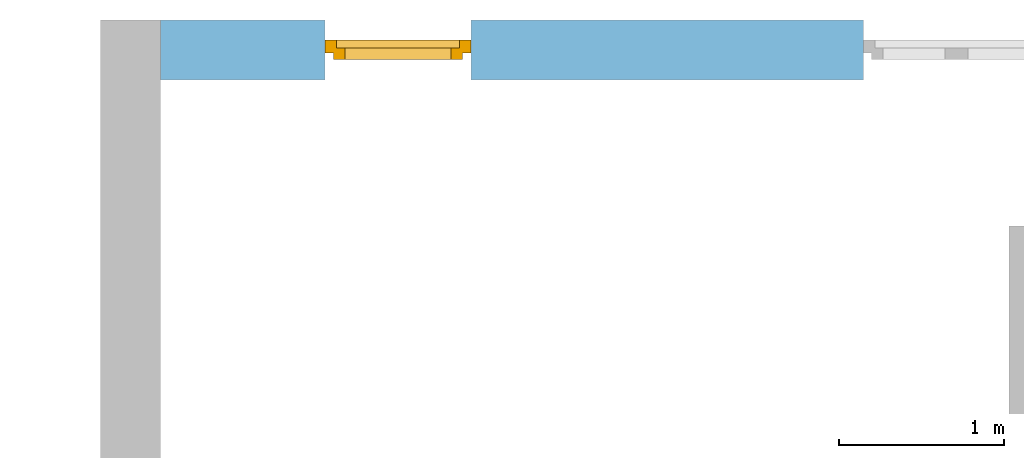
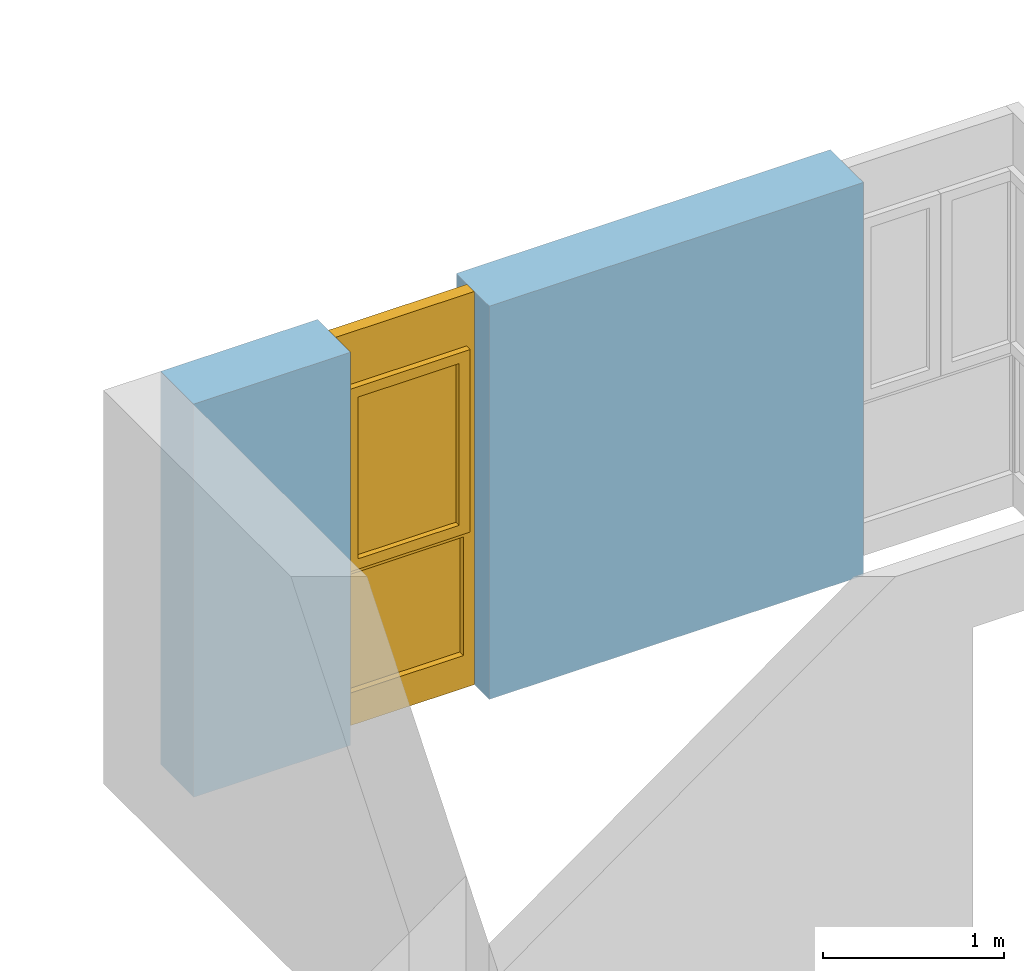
# One storey, part 20 of 42: 1 window, 2 openings, plus 1 element that does not belong to this part.
"""IFC2X3 building model written with IfcOpenShell, lengths in millimetres."""

from ifc_helpers import new_model, entity, si_unit, converted_unit, frame, frame_2d, origin, origin_with_axes, place, context, subcontext, project, spatial, rectangle, extrude, faceted_brep, material, layer, layer_set, layer_usage, type_object, element, fill, save


model = new_model("IFC2X3")

# Units and contexts
model_context = context("Model", 3, precision=1e-05, world=origin())
body_context = subcontext(model_context, "Body", "Model", "MODEL_VIEW")
ifc_project = project(units=[si_unit("LENGTHUNIT", "METRE", prefix="MILLI"), converted_unit("PLANEANGLEUNIT", "DEGREE", entity("IfcPlaneAngleMeasure", 0.0174532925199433), si_unit("PLANEANGLEUNIT", "RADIAN"), dimensions=[0, 0, 0, 0, 0, 0, 0]), si_unit("AREAUNIT", "SQUARE_METRE"), si_unit("VOLUMEUNIT", "CUBIC_METRE")], contexts=[model_context])

# Building, storey
building_placement = place(None, origin())
building = spatial("IfcBuilding", under=ifc_project, at=building_placement, Name="Gebäude", CompositionType="ELEMENT")
storey_placement = place(building_placement, frame((0.0, 0.0, 2730.0), z_axis=(0.0, 0.0, 1.0), x_axis=(1.0, 0.0, 0.0)))
storey = spatial("IfcBuildingStorey", under=building, at=storey_placement, Name="OG.- Grundriss", CompositionType="ELEMENT", Elevation=2730.0)

# Wall, openings, window
ifc_material_1 = material(Name="Poroton")
ifc_layer = layer(ifc_material_1, 365.0000000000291)
ifc_layer_set = layer_set([ifc_layer])
ifc_layer_usage = layer_usage(ifc_layer_set, "AXIS2", "POSITIVE", 0.0)
wall_placement = place(storey_placement, frame((154222.7928067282, 139284.8877324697, 0.0), z_axis=(0.0, 0.0, 1.0), x_axis=(0.9999999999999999, 0.0, 0.0)))
wall = element("IfcWallStandardCase", 1, at=wall_placement, inside=storey, material=ifc_layer_usage, Name="<Unnamed Element>", context=body_context, shape_type="SweptSolid", body=[
    extrude(rectangle(XDim=5520.000000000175, YDim=365.0000000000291, at=frame_2d((2760.000000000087, 182.5000000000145), x_axis=(1.0, 0.0))), origin_with_axes(), (0.0, 0.0, 1.0), 2650.0),
])
opening_1_placement = place(wall_placement, frame((4270.000000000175, 0.0, 0.0), z_axis=(0.0, 1.0, 0.0), x_axis=(0.0, 0.0, 1.0)))
element("IfcOpeningElement", 2, at=opening_1_placement, cuts=wall, Name="Fensteröffnung", ObjectType="Opening", context=body_context, shape_type="Brep", body=[
    faceted_brep([(0.0, 884.9999999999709, -884.9999999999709), (0.0, 1250.0, -884.9999999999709), (0.0, 1250.0, 365.0000000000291), (0.0, 0.0, 365.0000000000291), (0.0, 0.0, 0.0), (0.0, 884.9999999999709, 0.0), (2650.0, 1250.0, -884.9999999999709), (2650.0, 884.9999999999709, -884.9999999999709), (2650.0, 884.9999999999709, 0.0), (2650.0, 0.0, 0.0), (2650.0, 0.0, 365.0000000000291), (2650.0, 1250.0, 365.0000000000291), (0.0, 0.0, 365.0000000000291), (0.0, 1250.0, 365.0000000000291), (2650.0, 1250.0, 365.0000000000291), (2650.0, 0.0, 365.0000000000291), (0.0, 0.0, 0.0), (0.0, 0.0, 365.0000000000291), (2650.0, 0.0, 365.0000000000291), (2650.0, 0.0, 0.0), (0.0, 884.9999999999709, 0.0), (0.0, 0.0, 0.0), (2650.0, 0.0, 0.0), (2650.0, 884.9999999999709, 0.0), (0.0, 1250.0, -884.9999999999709), (0.0, 884.9999999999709, -884.9999999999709), (2650.0, 884.9999999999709, -884.9999999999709), (2650.0, 1250.0, -884.9999999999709), (0.0, 1250.0, 365.0000000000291), (0.0, 1250.0, -884.9999999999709), (2650.0, 1250.0, -884.9999999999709), (2650.0, 1250.0, 365.0000000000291), (0.0, 884.9999999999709, -884.9999999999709), (0.0, 884.9999999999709, 0.0), (2650.0, 884.9999999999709, 0.0), (2650.0, 884.9999999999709, -884.9999999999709)], [[[0, 1, 2, 3, 4, 5]], [[6, 7, 8, 9, 10, 11]], [[12, 13, 14, 15]], [[16, 17, 18, 19]], [[20, 21, 22, 23]], [[24, 25, 26, 27]], [[28, 29, 30, 31]], [[32, 33, 34, 35]]], orient=[[False], [False], [False], [False], [False], [False], [False], [False]]),
])
opening_2_placement = place(wall_placement, frame((999.9999999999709, 0.0, 0.0), z_axis=(0.0, 1.0, 0.0), x_axis=(0.0, 0.0, 1.0)))
opening_2 = element("IfcOpeningElement", 3, at=opening_2_placement, cuts=wall, Name="Fensteröffnung", ObjectType="Opening", context=body_context, shape_type="SweptSolid", body=[
    extrude(rectangle(XDim=2650.0, YDim=885.0, at=frame_2d((1325.0, 442.5), x_axis=(1.0, 0.0))), origin_with_axes(), (0.0, 0.0, 1.0), 365.0000000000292),
])
ifc_material_2 = material()
window_style = type_object("IfcWindowStyle", Name="Fenster", ConstructionType="NOTDEFINED", OperationType="USERDEFINED", ParameterTakesPrecedence=False, Sizeable=False)
window_placement = place(opening_2_placement, frame((0.0, 0.0, 0.0), z_axis=(1.0, 0.0, 0.0), x_axis=(0.0, 1.0, 0.0)))
window = element("IfcWindow", 4, at=window_placement, inside=storey, type_object=window_style, material=ifc_material_2, Name="Fenster", OverallHeight=2650.0, OverallWidth=885.0, context=body_context, shape_type="Brep", body=[
    faceted_brep([(885.0, 164.9999999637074, 2650.0), (885.0, 164.9999999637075, -2.449293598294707e-15), (815.0, 164.9999999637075, -2.449293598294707e-15), (815.0, 164.9999999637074, 2650.0), (885.0, 244.9999999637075, 2.449293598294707e-15), (885.0, 244.9999999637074, 2650.0), (815.0, 244.9999999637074, 2650.0), (815.0, 244.9999999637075, 2.449293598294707e-15), (885.0, 164.9999999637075, -2.449293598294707e-15), (885.0, 164.9999999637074, 2650.0), (885.0, 244.9999999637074, 2650.0), (885.0, 244.9999999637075, 2.449293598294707e-15), (815.0, 164.9999999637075, -2.449293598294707e-15), (885.0, 164.9999999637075, -2.449293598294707e-15), (885.0, 244.9999999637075, 2.449293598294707e-15), (815.0, 244.9999999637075, 2.449293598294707e-15), (815.0, 164.9999999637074, 2650.0), (815.0, 164.9999999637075, -2.449293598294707e-15), (815.0, 244.9999999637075, 2.449293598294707e-15), (815.0, 244.9999999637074, 2650.0), (885.0, 164.9999999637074, 2650.0), (815.0, 164.9999999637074, 2650.0), (815.0, 244.9999999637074, 2650.0), (885.0, 244.9999999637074, 2650.0)], [[[0, 1, 2, 3]], [[4, 5, 6, 7]], [[8, 9, 10, 11]], [[12, 13, 14, 15]], [[16, 17, 18, 19]], [[20, 21, 22, 23]]], orient=[[False], [False], [False], [False], [False], [False]]),
    faceted_brep([(69.99999998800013, 164.9999999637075, 2650.0), (69.99999998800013, 164.9999999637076, -2.449293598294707e-15), (-1.199987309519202e-08, 164.9999999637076, -2.449293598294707e-15), (-1.199987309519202e-08, 164.9999999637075, 2650.0), (69.99999998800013, 244.9999999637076, 2.449293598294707e-15), (69.99999998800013, 244.9999999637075, 2650.0), (-1.199987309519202e-08, 244.9999999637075, 2650.0), (-1.199987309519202e-08, 244.9999999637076, 2.449293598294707e-15), (69.99999998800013, 164.9999999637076, -2.449293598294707e-15), (69.99999998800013, 164.9999999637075, 2650.0), (69.99999998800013, 244.9999999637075, 2650.0), (69.99999998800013, 244.9999999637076, 2.449293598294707e-15), (-1.199987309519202e-08, 164.9999999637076, -2.449293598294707e-15), (69.99999998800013, 164.9999999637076, -2.449293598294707e-15), (69.99999998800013, 244.9999999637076, 2.449293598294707e-15), (-1.199987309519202e-08, 244.9999999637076, 2.449293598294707e-15), (-1.199987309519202e-08, 164.9999999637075, 2650.0), (-1.199987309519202e-08, 164.9999999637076, -2.449293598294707e-15), (-1.199987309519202e-08, 244.9999999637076, 2.449293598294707e-15), (-1.199987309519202e-08, 244.9999999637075, 2650.0), (69.99999998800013, 164.9999999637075, 2650.0), (-1.199987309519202e-08, 164.9999999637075, 2650.0), (-1.199987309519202e-08, 244.9999999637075, 2650.0), (69.99999998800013, 244.9999999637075, 2650.0)], [[[0, 1, 2, 3]], [[4, 5, 6, 7]], [[8, 9, 10, 11]], [[12, 13, 14, 15]], [[16, 17, 18, 19]], [[20, 21, 22, 23]]], orient=[[False], [False], [False], [False], [False], [False]]),
    faceted_brep([(815.0, 164.9999999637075, 220.0), (815.0, 164.9999999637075, -2.449293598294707e-15), (69.99999998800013, 164.9999999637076, -2.449293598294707e-15), (69.99999998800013, 164.9999999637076, 220.0), (815.0, 244.9999999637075, 2.449293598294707e-15), (815.0, 244.9999999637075, 220.0), (69.99999998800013, 244.9999999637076, 220.0), (69.99999998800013, 244.9999999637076, 2.449293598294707e-15), (815.0, 164.9999999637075, -2.449293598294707e-15), (815.0, 164.9999999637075, 220.0), (815.0, 244.9999999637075, 220.0), (815.0, 244.9999999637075, 2.449293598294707e-15), (69.99999998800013, 164.9999999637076, -2.449293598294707e-15), (815.0, 164.9999999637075, -2.449293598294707e-15), (815.0, 244.9999999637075, 2.449293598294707e-15), (69.99999998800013, 244.9999999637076, 2.449293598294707e-15), (69.99999998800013, 164.9999999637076, 220.0), (69.99999998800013, 164.9999999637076, -2.449293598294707e-15), (69.99999998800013, 244.9999999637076, 2.449293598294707e-15), (69.99999998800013, 244.9999999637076, 220.0), (815.0, 164.9999999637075, 220.0), (69.99999998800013, 164.9999999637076, 220.0), (69.99999998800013, 244.9999999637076, 220.0), (815.0, 244.9999999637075, 220.0)], [[[0, 1, 2, 3]], [[4, 5, 6, 7]], [[8, 9, 10, 11]], [[12, 13, 14, 15]], [[16, 17, 18, 19]], [[20, 21, 22, 23]]], orient=[[False], [False], [False], [False], [False], [False]]),
    faceted_brep([(815.0, 164.9999999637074, 2650.0), (815.0, 164.9999999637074, 2280.0), (69.99999998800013, 164.9999999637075, 2280.0), (69.99999998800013, 164.9999999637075, 2650.0), (815.0, 244.9999999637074, 2280.0), (815.0, 244.9999999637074, 2650.0), (69.99999998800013, 244.9999999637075, 2650.0), (69.99999998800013, 244.9999999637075, 2280.0), (815.0, 164.9999999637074, 2280.0), (815.0, 164.9999999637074, 2650.0), (815.0, 244.9999999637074, 2650.0), (815.0, 244.9999999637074, 2280.0), (69.99999998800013, 164.9999999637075, 2280.0), (815.0, 164.9999999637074, 2280.0), (815.0, 244.9999999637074, 2280.0), (69.99999998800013, 244.9999999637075, 2280.0), (69.99999998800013, 164.9999999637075, 2650.0), (69.99999998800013, 164.9999999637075, 2280.0), (69.99999998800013, 244.9999999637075, 2280.0), (69.99999998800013, 244.9999999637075, 2650.0), (815.0, 164.9999999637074, 2650.0), (69.99999998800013, 164.9999999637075, 2650.0), (69.99999998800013, 244.9999999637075, 2650.0), (815.0, 244.9999999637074, 2650.0)], [[[0, 1, 2, 3]], [[4, 5, 6, 7]], [[8, 9, 10, 11]], [[12, 13, 14, 15]], [[16, 17, 18, 19]], [[20, 21, 22, 23]]], orient=[[False], [False], [False], [False], [False], [False]]),
    faceted_brep([(815.0, 164.9999999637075, 1090.0), (815.0, 164.9999999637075, 1020.0), (69.99999998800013, 164.9999999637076, 1020.0), (69.99999998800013, 164.9999999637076, 1090.0), (815.0, 244.9999999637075, 1020.0), (815.0, 244.9999999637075, 1090.0), (69.99999998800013, 244.9999999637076, 1090.0), (69.99999998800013, 244.9999999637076, 1020.0), (815.0, 164.9999999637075, 1020.0), (815.0, 164.9999999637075, 1090.0), (815.0, 244.9999999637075, 1090.0), (815.0, 244.9999999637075, 1020.0), (69.99999998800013, 164.9999999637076, 1020.0), (815.0, 164.9999999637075, 1020.0), (815.0, 244.9999999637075, 1020.0), (69.99999998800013, 244.9999999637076, 1020.0), (69.99999998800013, 164.9999999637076, 1090.0), (69.99999998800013, 164.9999999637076, 1020.0), (69.99999998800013, 244.9999999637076, 1020.0), (69.99999998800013, 244.9999999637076, 1090.0), (815.0, 164.9999999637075, 1090.0), (69.99999998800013, 164.9999999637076, 1090.0), (69.99999998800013, 244.9999999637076, 1090.0), (815.0, 244.9999999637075, 1090.0)], [[[0, 1, 2, 3]], [[4, 5, 6, 7]], [[8, 9, 10, 11]], [[12, 13, 14, 15]], [[16, 17, 18, 19]], [[20, 21, 22, 23]]], orient=[[False], [False], [False], [False], [False], [False]]),
    faceted_brep([(815.0, 204.9999999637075, 220.0), (69.99999998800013, 204.9999999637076, 220.0), (69.99999998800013, 204.9999999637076, 1020.0), (815.0, 204.9999999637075, 1020.0), (815.0, 205.9999999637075, 220.0), (815.0, 205.9999999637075, 1020.0), (69.99999998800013, 205.9999999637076, 1020.0), (69.99999998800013, 205.9999999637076, 220.0), (815.0, 204.9999999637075, 220.0), (815.0, 205.9999999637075, 220.0), (69.99999998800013, 205.9999999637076, 220.0), (69.99999998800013, 204.9999999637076, 220.0), (69.99999998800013, 204.9999999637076, 220.0), (69.99999998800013, 205.9999999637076, 220.0), (69.99999998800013, 205.9999999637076, 1020.0), (69.99999998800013, 204.9999999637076, 1020.0), (69.99999998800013, 204.9999999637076, 1020.0), (69.99999998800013, 205.9999999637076, 1020.0), (815.0, 205.9999999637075, 1020.0), (815.0, 204.9999999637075, 1020.0), (815.0, 204.9999999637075, 1020.0), (815.0, 205.9999999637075, 1020.0), (815.0, 205.9999999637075, 220.0), (815.0, 204.9999999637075, 220.0)], [[[0, 1, 2, 3]], [[4, 5, 6, 7]], [[8, 9, 10, 11]], [[12, 13, 14, 15]], [[16, 17, 18, 19]], [[20, 21, 22, 23]]], orient=[[False], [False], [False], [False], [False], [False]]),
    faceted_brep([(835.0, 124.9999999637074, 2300.0), (835.0, 124.9999999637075, 1070.0), (765.0, 124.9999999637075, 1070.0), (765.0, 124.9999999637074, 2300.0), (835.0, 194.9999999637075, 1070.0), (835.0, 194.9999999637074, 2300.0), (765.0, 194.9999999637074, 2300.0), (765.0, 194.9999999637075, 1070.0), (835.0, 124.9999999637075, 1070.0), (835.0, 124.9999999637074, 2300.0), (835.0, 194.9999999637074, 2300.0), (835.0, 194.9999999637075, 1070.0), (765.0, 124.9999999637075, 1070.0), (835.0, 124.9999999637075, 1070.0), (835.0, 194.9999999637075, 1070.0), (765.0, 194.9999999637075, 1070.0), (765.0, 124.9999999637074, 2300.0), (765.0, 124.9999999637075, 1070.0), (765.0, 194.9999999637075, 1070.0), (765.0, 194.9999999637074, 2300.0), (835.0, 124.9999999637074, 2300.0), (765.0, 124.9999999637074, 2300.0), (765.0, 194.9999999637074, 2300.0), (835.0, 194.9999999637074, 2300.0)], [[[0, 1, 2, 3]], [[4, 5, 6, 7]], [[8, 9, 10, 11]], [[12, 13, 14, 15]], [[16, 17, 18, 19]], [[20, 21, 22, 23]]], orient=[[False], [False], [False], [False], [False], [False]]),
    faceted_brep([(119.9999999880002, 124.9999999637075, 2300.0), (119.9999999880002, 124.9999999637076, 1070.0), (49.99999998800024, 124.9999999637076, 1070.0), (49.99999998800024, 124.9999999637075, 2300.0), (119.9999999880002, 194.9999999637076, 1070.0), (119.9999999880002, 194.9999999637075, 2300.0), (49.99999998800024, 194.9999999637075, 2300.0), (49.99999998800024, 194.9999999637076, 1070.0), (119.9999999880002, 124.9999999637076, 1070.0), (119.9999999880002, 124.9999999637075, 2300.0), (119.9999999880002, 194.9999999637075, 2300.0), (119.9999999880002, 194.9999999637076, 1070.0), (49.99999998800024, 124.9999999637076, 1070.0), (119.9999999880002, 124.9999999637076, 1070.0), (119.9999999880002, 194.9999999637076, 1070.0), (49.99999998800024, 194.9999999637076, 1070.0), (49.99999998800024, 124.9999999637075, 2300.0), (49.99999998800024, 124.9999999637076, 1070.0), (49.99999998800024, 194.9999999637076, 1070.0), (49.99999998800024, 194.9999999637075, 2300.0), (119.9999999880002, 124.9999999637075, 2300.0), (49.99999998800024, 124.9999999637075, 2300.0), (49.99999998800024, 194.9999999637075, 2300.0), (119.9999999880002, 194.9999999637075, 2300.0)], [[[0, 1, 2, 3]], [[4, 5, 6, 7]], [[8, 9, 10, 11]], [[12, 13, 14, 15]], [[16, 17, 18, 19]], [[20, 21, 22, 23]]], orient=[[False], [False], [False], [False], [False], [False]]),
    faceted_brep([(765.0, 124.9999999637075, 1140.0), (765.0, 124.9999999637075, 1070.0), (119.9999999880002, 124.9999999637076, 1070.0), (119.9999999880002, 124.9999999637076, 1140.0), (765.0, 194.9999999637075, 1070.0), (765.0, 194.9999999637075, 1140.0), (119.9999999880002, 194.9999999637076, 1140.0), (119.9999999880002, 194.9999999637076, 1070.0), (765.0, 124.9999999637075, 1070.0), (765.0, 124.9999999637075, 1140.0), (765.0, 194.9999999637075, 1140.0), (765.0, 194.9999999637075, 1070.0), (119.9999999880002, 124.9999999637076, 1070.0), (765.0, 124.9999999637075, 1070.0), (765.0, 194.9999999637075, 1070.0), (119.9999999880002, 194.9999999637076, 1070.0), (119.9999999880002, 124.9999999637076, 1140.0), (119.9999999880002, 124.9999999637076, 1070.0), (119.9999999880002, 194.9999999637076, 1070.0), (119.9999999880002, 194.9999999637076, 1140.0), (765.0, 124.9999999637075, 1140.0), (119.9999999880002, 124.9999999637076, 1140.0), (119.9999999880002, 194.9999999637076, 1140.0), (765.0, 194.9999999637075, 1140.0)], [[[0, 1, 2, 3]], [[4, 5, 6, 7]], [[8, 9, 10, 11]], [[12, 13, 14, 15]], [[16, 17, 18, 19]], [[20, 21, 22, 23]]], orient=[[False], [False], [False], [False], [False], [False]]),
    faceted_brep([(765.0, 124.9999999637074, 2300.0), (765.0, 124.9999999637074, 2230.0), (119.9999999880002, 124.9999999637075, 2230.0), (119.9999999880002, 124.9999999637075, 2300.0), (765.0, 194.9999999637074, 2230.0), (765.0, 194.9999999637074, 2300.0), (119.9999999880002, 194.9999999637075, 2300.0), (119.9999999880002, 194.9999999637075, 2230.0), (765.0, 124.9999999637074, 2230.0), (765.0, 124.9999999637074, 2300.0), (765.0, 194.9999999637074, 2300.0), (765.0, 194.9999999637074, 2230.0), (119.9999999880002, 124.9999999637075, 2230.0), (765.0, 124.9999999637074, 2230.0), (765.0, 194.9999999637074, 2230.0), (119.9999999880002, 194.9999999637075, 2230.0), (119.9999999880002, 124.9999999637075, 2300.0), (119.9999999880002, 124.9999999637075, 2230.0), (119.9999999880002, 194.9999999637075, 2230.0), (119.9999999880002, 194.9999999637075, 2300.0), (765.0, 124.9999999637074, 2300.0), (119.9999999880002, 124.9999999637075, 2300.0), (119.9999999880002, 194.9999999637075, 2300.0), (765.0, 194.9999999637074, 2300.0)], [[[0, 1, 2, 3]], [[4, 5, 6, 7]], [[8, 9, 10, 11]], [[12, 13, 14, 15]], [[16, 17, 18, 19]], [[20, 21, 22, 23]]], orient=[[False], [False], [False], [False], [False], [False]]),
    faceted_brep([(765.0, 159.9999999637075, 1140.0), (119.9999999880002, 159.9999999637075, 1140.0), (119.9999999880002, 159.9999999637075, 2230.0), (765.0, 159.9999999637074, 2230.0), (765.0, 160.9999999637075, 1140.0), (765.0, 160.9999999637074, 2230.0), (119.9999999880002, 160.9999999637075, 2230.0), (119.9999999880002, 160.9999999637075, 1140.0), (765.0, 159.9999999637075, 1140.0), (765.0, 160.9999999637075, 1140.0), (119.9999999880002, 160.9999999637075, 1140.0), (119.9999999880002, 159.9999999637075, 1140.0), (119.9999999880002, 159.9999999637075, 1140.0), (119.9999999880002, 160.9999999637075, 1140.0), (119.9999999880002, 160.9999999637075, 2230.0), (119.9999999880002, 159.9999999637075, 2230.0), (119.9999999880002, 159.9999999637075, 2230.0), (119.9999999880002, 160.9999999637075, 2230.0), (765.0, 160.9999999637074, 2230.0), (765.0, 159.9999999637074, 2230.0), (765.0, 159.9999999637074, 2230.0), (765.0, 160.9999999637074, 2230.0), (765.0, 160.9999999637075, 1140.0), (765.0, 159.9999999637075, 1140.0)], [[[0, 1, 2, 3]], [[4, 5, 6, 7]], [[8, 9, 10, 11]], [[12, 13, 14, 15]], [[16, 17, 18, 19]], [[20, 21, 22, 23]]], orient=[[False], [False], [False], [False], [False], [False]]),
])
fill(opening_2, window)

save(model, "model.ifc")
